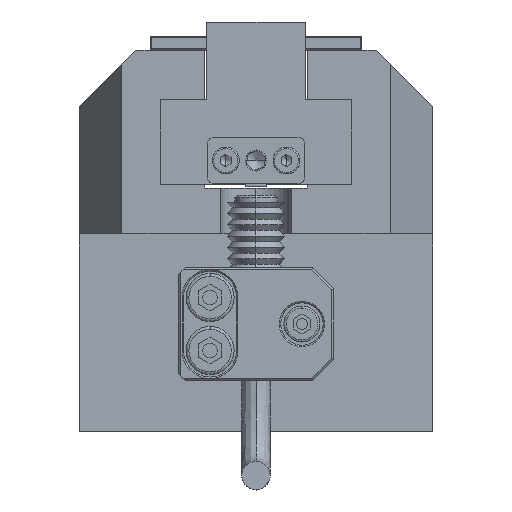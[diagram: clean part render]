
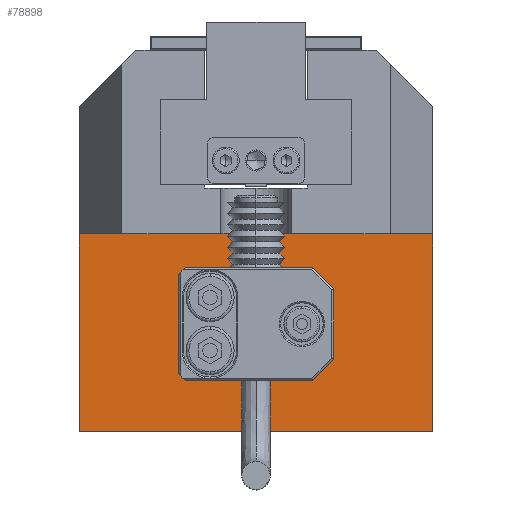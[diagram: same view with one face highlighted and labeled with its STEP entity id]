
A CAD part, left-side view. The second image highlights one B-rep face of the part: STEP entity #78898.
In plain terms, the highlighted planar face has unit normal (-1, 0, 0).
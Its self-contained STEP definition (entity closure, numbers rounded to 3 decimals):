
#4234 = LINE ( 'NONE', #28864, #19937 ) ;
#4849 = CARTESIAN_POINT ( 'NONE',  ( -40., 6.5, 19. ) ) ;
#4947 = DIRECTION ( 'NONE',  ( 0., 1., 0. ) ) ;
#9329 = CARTESIAN_POINT ( 'NONE',  ( -40., -25., 0. ) ) ;
#9730 = DIRECTION ( 'NONE',  ( 0., 1., 0. ) ) ;
#12524 = ORIENTED_EDGE ( 'NONE', *, *, #52432, .F. ) ;
#16126 = CARTESIAN_POINT ( 'NONE',  ( -40., -25., 28. ) ) ;
#16440 = CARTESIAN_POINT ( 'NONE',  ( -40., 25., 0. ) ) ;
#16759 = VECTOR ( 'NONE', #4947, 1000. ) ;
#16841 = EDGE_LOOP ( 'NONE', ( #57330, #33874, #80463, #12524 ) ) ;
#17566 = DIRECTION ( 'NONE',  ( 0., 0., 1. ) ) ;
#18037 = EDGE_CURVE ( 'NONE', #55318, #63468, #32398, .T. ) ;
#18159 = VERTEX_POINT ( 'NONE', #16126 ) ;
#19480 = ORIENTED_EDGE ( 'NONE', *, *, #18037, .F. ) ;
#19937 = VECTOR ( 'NONE', #72440, 1000. ) ;
#20523 = ORIENTED_EDGE ( 'NONE', *, *, #25739, .F. ) ;
#21123 = DIRECTION ( 'NONE',  ( -1., 0., 0. ) ) ;
#21315 = EDGE_LOOP ( 'NONE', ( #67754, #75786 ) ) ;
#23021 = CARTESIAN_POINT ( 'NONE',  ( -40., -25., 0. ) ) ;
#24569 = CARTESIAN_POINT ( 'NONE',  ( -40., 25., 28. ) ) ;
#24635 = CARTESIAN_POINT ( 'NONE',  ( -40., -25., 0. ) ) ;
#25739 = EDGE_CURVE ( 'NONE', #63468, #55318, #72175, .T. ) ;
#26017 = DIRECTION ( 'NONE',  ( 0., 0., 1. ) ) ;
#26846 = EDGE_CURVE ( 'NONE', #18159, #44894, #77309, .T. ) ;
#27525 = LINE ( 'NONE', #33681, #29505 ) ;
#27818 = FACE_BOUND ( 'NONE', #35253, .T. ) ;
#28864 = CARTESIAN_POINT ( 'NONE',  ( -40., 25., 0. ) ) ;
#29184 = LINE ( 'NONE', #23021, #16759 ) ;
#29505 = VECTOR ( 'NONE', #72289, 1000. ) ;
#29868 = DIRECTION ( 'NONE',  ( -1., 0., 0. ) ) ;
#30333 = AXIS2_PLACEMENT_3D ( 'NONE', #32632, #21123, #33061 ) ;
#32398 = CIRCLE ( 'NONE', #49483, 2. ) ;
#32451 = CARTESIAN_POINT ( 'NONE',  ( -40., 6.5, 17. ) ) ;
#32632 = CARTESIAN_POINT ( 'NONE',  ( -40., 6.5, 19. ) ) ;
#32803 = AXIS2_PLACEMENT_3D ( 'NONE', #48924, #73560, #49726 ) ;
#33061 = DIRECTION ( 'NONE',  ( 0., 0., 1. ) ) ;
#33681 = CARTESIAN_POINT ( 'NONE',  ( -40., -25., 28. ) ) ;
#33874 = ORIENTED_EDGE ( 'NONE', *, *, #26846, .F. ) ;
#35253 = EDGE_LOOP ( 'NONE', ( #20523, #19480 ) ) ;
#38359 = CARTESIAN_POINT ( 'NONE',  ( -40., 6.5, 13.5 ) ) ;
#40968 = PLANE ( 'NONE',  #67908 ) ;
#44894 = VERTEX_POINT ( 'NONE', #24635 ) ;
#45856 = AXIS2_PLACEMENT_3D ( 'NONE', #4849, #29868, #17566 ) ;
#46544 = EDGE_CURVE ( 'NONE', #67360, #48027, #53699, .T. ) ;
#48027 = VERTEX_POINT ( 'NONE', #62644 ) ;
#48924 = CARTESIAN_POINT ( 'NONE',  ( -40., 6.5, 11.5 ) ) ;
#49483 = AXIS2_PLACEMENT_3D ( 'NONE', #52287, #58071, #26017 ) ;
#49726 = DIRECTION ( 'NONE',  ( 0., 0., 1. ) ) ;
#51773 = CARTESIAN_POINT ( 'NONE',  ( -40., 6.5, 9.5 ) ) ;
#51784 = VERTEX_POINT ( 'NONE', #16440 ) ;
#52287 = CARTESIAN_POINT ( 'NONE',  ( -40., 6.5, 11.5 ) ) ;
#52432 = EDGE_CURVE ( 'NONE', #51784, #61412, #4234, .T. ) ;
#52889 = FACE_BOUND ( 'NONE', #21315, .T. ) ;
#53699 = CIRCLE ( 'NONE', #45856, 2. ) ;
#55278 = CIRCLE ( 'NONE', #30333, 2. ) ;
#55318 = VERTEX_POINT ( 'NONE', #51773 ) ;
#57330 = ORIENTED_EDGE ( 'NONE', *, *, #72434, .F. ) ;
#57615 = DIRECTION ( 'NONE',  ( 0., 0., -1. ) ) ;
#58071 = DIRECTION ( 'NONE',  ( -1., 0., 0. ) ) ;
#61412 = VERTEX_POINT ( 'NONE', #24569 ) ;
#62644 = CARTESIAN_POINT ( 'NONE',  ( -40., 6.5, 21. ) ) ;
#63468 = VERTEX_POINT ( 'NONE', #38359 ) ;
#65439 = EDGE_CURVE ( 'NONE', #48027, #67360, #55278, .T. ) ;
#66008 = DIRECTION ( 'NONE',  ( 1., 0., 0. ) ) ;
#67360 = VERTEX_POINT ( 'NONE', #32451 ) ;
#67754 = ORIENTED_EDGE ( 'NONE', *, *, #65439, .F. ) ;
#67908 = AXIS2_PLACEMENT_3D ( 'NONE', #9329, #66008, #9730 ) ;
#72175 = CIRCLE ( 'NONE', #32803, 2. ) ;
#72289 = DIRECTION ( 'NONE',  ( 0., -1., 0. ) ) ;
#72434 = EDGE_CURVE ( 'NONE', #44894, #51784, #29184, .T. ) ;
#72440 = DIRECTION ( 'NONE',  ( 0., 0., 1. ) ) ;
#73560 = DIRECTION ( 'NONE',  ( -1., 0., 0. ) ) ;
#75470 = EDGE_CURVE ( 'NONE', #61412, #18159, #27525, .T. ) ;
#75692 = CARTESIAN_POINT ( 'NONE',  ( -40., -25., 0. ) ) ;
#75786 = ORIENTED_EDGE ( 'NONE', *, *, #46544, .F. ) ;
#77309 = LINE ( 'NONE', #75692, #77625 ) ;
#77625 = VECTOR ( 'NONE', #57615, 1000. ) ;
#77937 = FACE_OUTER_BOUND ( 'NONE', #16841, .T. ) ;
#78898 = ADVANCED_FACE ( 'NONE', ( #27818, #52889, #77937 ), #40968, .F. ) ;
#80463 = ORIENTED_EDGE ( 'NONE', *, *, #75470, .F. ) ;
